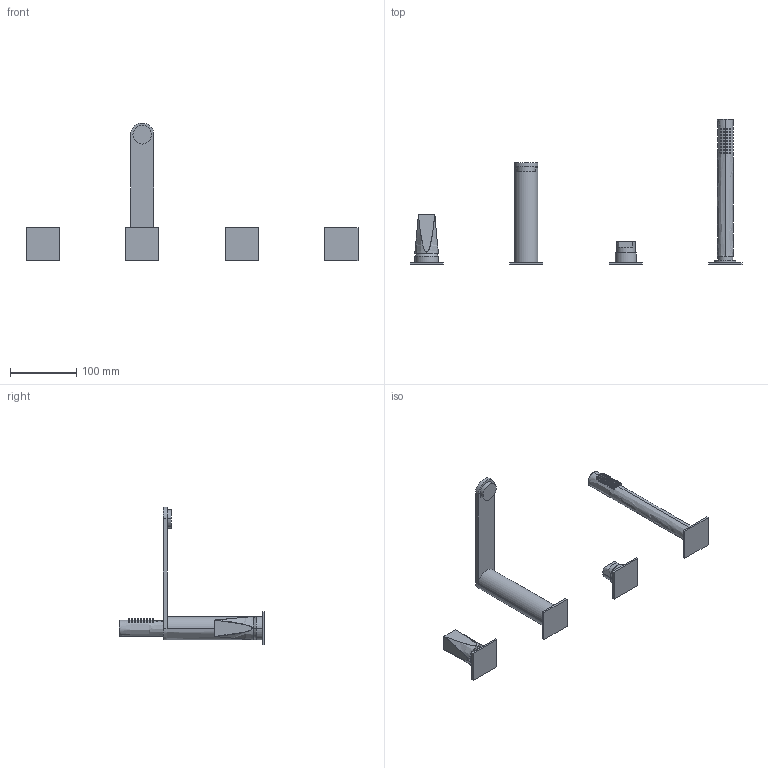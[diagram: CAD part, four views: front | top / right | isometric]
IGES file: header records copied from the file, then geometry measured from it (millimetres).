
Start section:  PTC IGES file: 49029.igs
Global section: file name: 49029.igs; native system: Creo Parametric by PTC Inc.; preprocessor: 2022014; author: carloff; organization: Unknown; date: 20230919.145858; units: millimetre
Bounding box: 500 x 219 x 207.5 mm (x, y, z)
Surface area: 81024.3 mm2 (no closed solid volume)
Topology: 0 solids, 0 shells, 258 faces, 1050 edges, 1048 vertices
Faces by surface type: revolution 179, bspline 79
